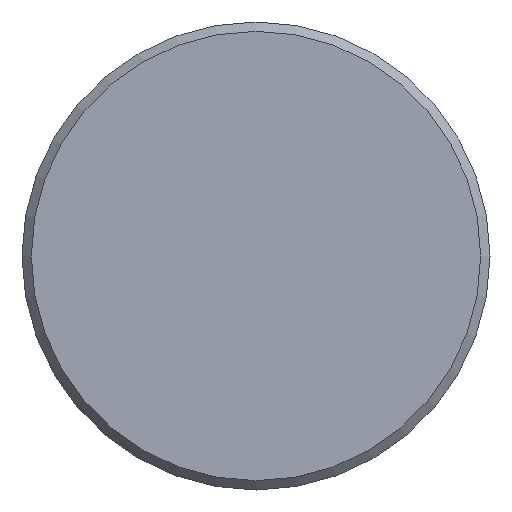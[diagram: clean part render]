
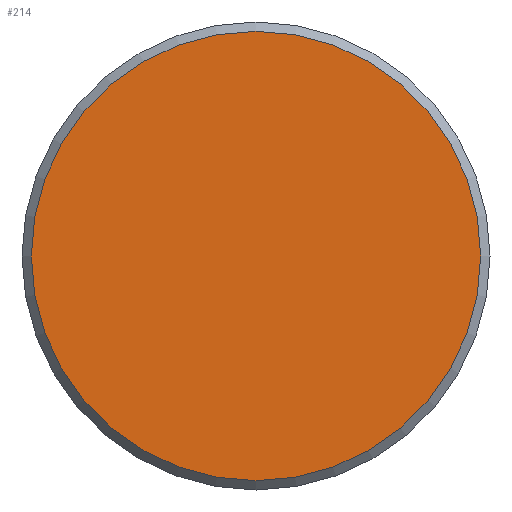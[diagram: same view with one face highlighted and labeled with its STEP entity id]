
A CAD part, front view. The second image highlights one B-rep face of the part: STEP entity #214.
In plain terms, the highlighted planar face has unit normal (0, -1, 0).
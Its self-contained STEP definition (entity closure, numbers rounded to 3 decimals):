
#214 = ADVANCED_FACE( '', ( #415 ), #416, .F. );
#415 = FACE_OUTER_BOUND( '', #611, .T. );
#416 = PLANE( '', #612 );
#611 = EDGE_LOOP( '', ( #999 ) );
#612 = AXIS2_PLACEMENT_3D( '', #1000, #1001, #1002 );
#999 = ORIENTED_EDGE( '', *, *, #1229, .T. );
#1000 = CARTESIAN_POINT( '', ( 12., 0., 0. ) );
#1001 = DIRECTION( '', ( 0., 1., 0. ) );
#1002 = DIRECTION( '', ( 0., 0., 1. ) );
#1229 = EDGE_CURVE( '', #1450, #1450, #1451, .T. );
#1450 = VERTEX_POINT( '', #1868 );
#1451 = CIRCLE( '', #1869, 12. );
#1868 = CARTESIAN_POINT( '', ( 0., 0., -12. ) );
#1869 = AXIS2_PLACEMENT_3D( '', #2156, #2157, #2158 );
#2156 = CARTESIAN_POINT( '', ( 0., 0., 0. ) );
#2157 = DIRECTION( '', ( 0., -1., 0. ) );
#2158 = DIRECTION( '', ( 0., 0., -1. ) );
